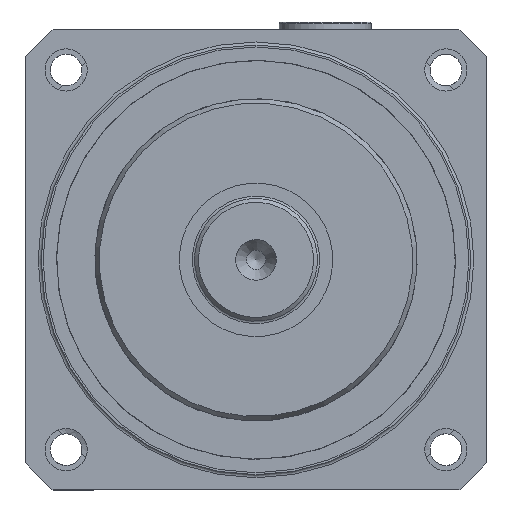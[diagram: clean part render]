
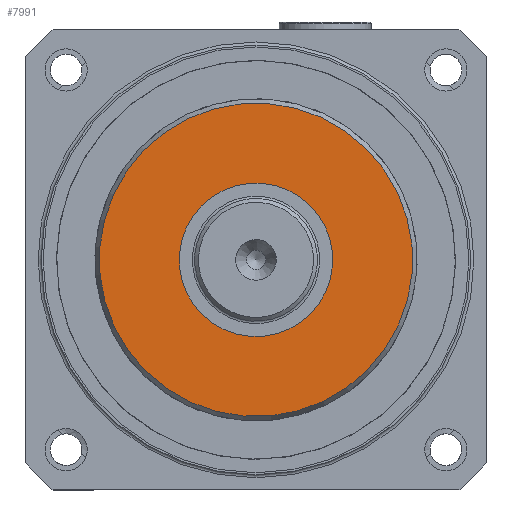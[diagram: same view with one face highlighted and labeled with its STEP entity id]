
A CAD part, left-side view. The second image highlights one B-rep face of the part: STEP entity #7991.
In plain terms, the highlighted planar face has unit normal (-1, 0, 0).
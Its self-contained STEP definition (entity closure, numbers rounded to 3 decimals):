
#722=FACE_BOUND('',#2151,.T.);
#1485=PLANE('',#8975);
#1668=FACE_OUTER_BOUND('',#2150,.T.);
#2150=EDGE_LOOP('',(#5909));
#2151=EDGE_LOOP('',(#5910,#5911));
#2746=CIRCLE('',#8971,20.423);
#2749=CIRCLE('',#8976,10.);
#2750=CIRCLE('',#8977,10.);
#3582=VERTEX_POINT('',#13138);
#3585=VERTEX_POINT('',#13148);
#3586=VERTEX_POINT('',#13149);
#4558=EDGE_CURVE('',#3582,#3582,#2746,.T.);
#4562=EDGE_CURVE('',#3585,#3586,#2749,.T.);
#4563=EDGE_CURVE('',#3586,#3585,#2750,.T.);
#5909=ORIENTED_EDGE('',*,*,#4558,.F.);
#5910=ORIENTED_EDGE('',*,*,#4562,.T.);
#5911=ORIENTED_EDGE('',*,*,#4563,.T.);
#7991=ADVANCED_FACE('',(#1668,#722),#1485,.T.);
#8971=AXIS2_PLACEMENT_3D('',#13140,#10388,#10389);
#8975=AXIS2_PLACEMENT_3D('',#13147,#10397,#10398);
#8976=AXIS2_PLACEMENT_3D('',#13150,#10399,#10400);
#8977=AXIS2_PLACEMENT_3D('',#13151,#10401,#10402);
#10388=DIRECTION('center_axis',(1.,0.,0.));
#10389=DIRECTION('ref_axis',(0.,-1.,0.));
#10397=DIRECTION('center_axis',(-1.,0.,0.));
#10398=DIRECTION('ref_axis',(0.,0.,1.));
#10399=DIRECTION('center_axis',(1.,0.,0.));
#10400=DIRECTION('ref_axis',(0.,0.,-1.));
#10401=DIRECTION('center_axis',(1.,0.,0.));
#10402=DIRECTION('ref_axis',(0.,0.,-1.));
#13138=CARTESIAN_POINT('',(0.,20.423,0.));
#13140=CARTESIAN_POINT('Origin',(0.,0.,0.));
#13147=CARTESIAN_POINT('Origin',(0.,21.,0.));
#13148=CARTESIAN_POINT('',(0.,10.,0.));
#13149=CARTESIAN_POINT('',(0.,-10.,0.));
#13150=CARTESIAN_POINT('Origin',(0.,0.,0.));
#13151=CARTESIAN_POINT('Origin',(0.,0.,0.));
